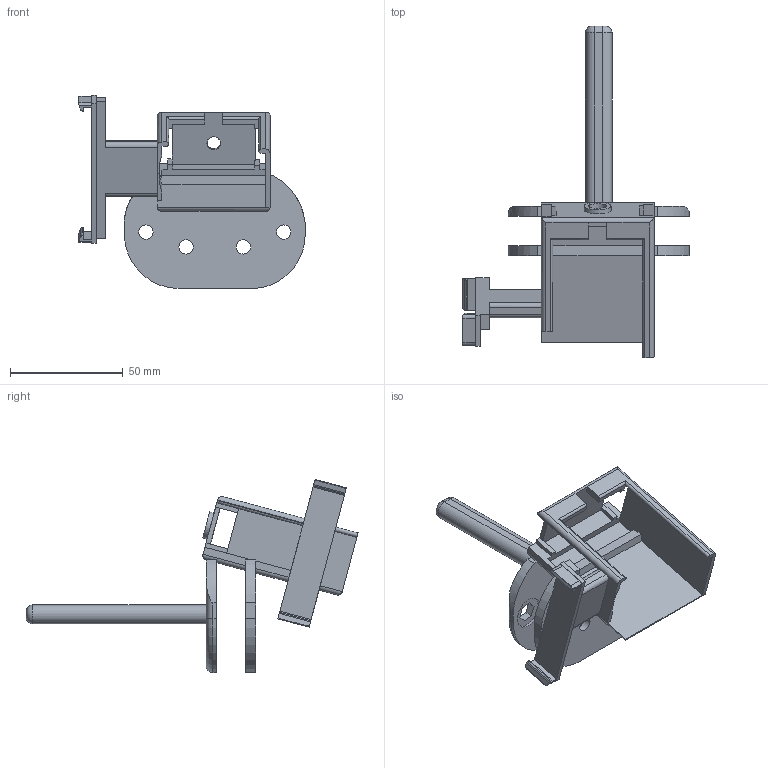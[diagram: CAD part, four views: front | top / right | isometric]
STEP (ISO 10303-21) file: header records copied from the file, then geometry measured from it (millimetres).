
FILE_DESCRIPTION(('sldprt2step conversion of Parasolid XT B-rep'),'2;1');
FILE_NAME('robotiq-body_new_version-389755.step','',(''),(''),'sldprt2step','','');
FILE_SCHEMA(('AUTOMOTIVE_DESIGN { 1 0 10303 214 1 1 1 1 }'));
Length unit declared in the file: millimetre
Products named in the file (1): robotiq-body_new_version-389755
Bounding box: 100.51 x 147.39 x 85.69 mm (x, y, z)
Volume: 59122.3 mm3; surface area: 36722.2 mm2
Topology: 1 solids, 1 shells, 193 faces, 533 edges, 347 vertices
Faces by surface type: plane 132, cylinder 57, torus 4
Full cylindrical faces by diameter (mm): 6 x1, 6.4 x6, 8 x1, 12 x1, 14 x6
Entity records: 6114 total; most frequent: CARTESIAN_POINT 1263, ORIENTED_EDGE 1022, DIRECTION 956, EDGE_CURVE 511, VECTOR 384, LINE 384, VERTEX_POINT 340, AXIS2_PLACEMENT_3D 286
